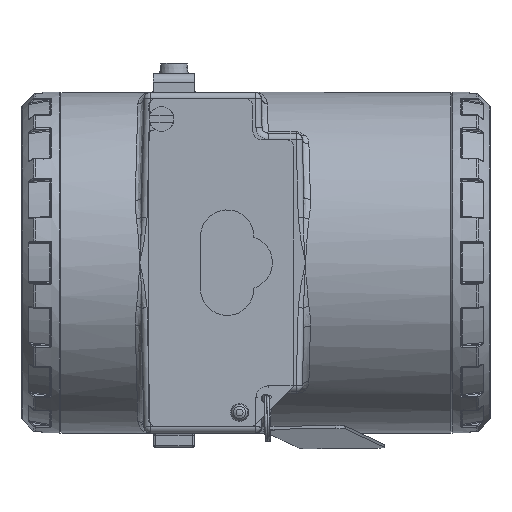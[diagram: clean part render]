
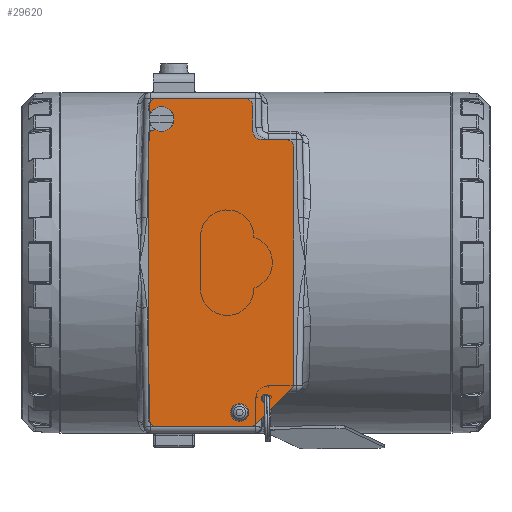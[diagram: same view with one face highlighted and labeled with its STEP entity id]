
A CAD part, left-side view. The second image highlights one B-rep face of the part: STEP entity #29620.
In plain terms, the highlighted planar face has unit normal (-1, 0, 0) as drawn and (0, 0, 1) by its records, which use the part's own axes.
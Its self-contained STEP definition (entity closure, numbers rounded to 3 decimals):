
#2741=FACE_BOUND('',#8742,.T.);
#2742=FACE_BOUND('',#8743,.T.);
#2966=PLANE('',#32798);
#3805=LINE('',#56198,#4946);
#3812=LINE('',#56229,#4953);
#3824=LINE('',#56270,#4965);
#3828=LINE('',#56280,#4969);
#3831=LINE('',#56288,#4972);
#3833=LINE('',#56294,#4974);
#3836=LINE('',#56302,#4977);
#3838=LINE('',#56308,#4979);
#3840=LINE('',#56315,#4981);
#3842=LINE('',#56320,#4983);
#4946=VECTOR('',#38799,10.);
#4953=VECTOR('',#38830,10.);
#4965=VECTOR('',#38866,10.);
#4969=VECTOR('',#38876,10.);
#4972=VECTOR('',#38885,10.);
#4974=VECTOR('',#38893,10.);
#4977=VECTOR('',#38902,10.);
#4979=VECTOR('',#38910,10.);
#4981=VECTOR('',#38918,10.);
#4983=VECTOR('',#38926,10.);
#6748=FACE_OUTER_BOUND('',#8741,.T.);
#8741=EDGE_LOOP('',(#23804,#23805,#23806,#23807,#23808,#23809,#23810,#23811,
#23812,#23813,#23814,#23815,#23816,#23817,#23818,#23819,#23820,#23821,#23822,
#23823));
#8742=EDGE_LOOP('',(#23824,#23825));
#8743=EDGE_LOOP('',(#23826,#23827));
#10726=CIRCLE('',#32751,2.);
#10727=CIRCLE('',#32754,1.);
#10728=CIRCLE('',#32755,1.);
#10730=CIRCLE('',#32758,1.35);
#10731=CIRCLE('',#32759,1.35);
#10733=CIRCLE('',#32762,1.);
#10743=CIRCLE('',#32775,1.);
#10744=CIRCLE('',#32778,2.);
#10745=CIRCLE('',#32781,2.);
#10746=CIRCLE('',#32784,2.);
#10747=CIRCLE('',#32787,2.);
#10748=CIRCLE('',#32790,2.);
#10749=CIRCLE('',#32793,2.);
#10750=CIRCLE('',#32796,2.1);
#13336=VERTEX_POINT('',#56188);
#13337=VERTEX_POINT('',#56190);
#13339=VERTEX_POINT('',#56196);
#13340=VERTEX_POINT('',#56200);
#13341=VERTEX_POINT('',#56201);
#13343=VERTEX_POINT('',#56208);
#13344=VERTEX_POINT('',#56209);
#13346=VERTEX_POINT('',#56216);
#13347=VERTEX_POINT('',#56217);
#13351=VERTEX_POINT('',#56227);
#13366=VERTEX_POINT('',#56262);
#13367=VERTEX_POINT('',#56263);
#13368=VERTEX_POINT('',#56268);
#13369=VERTEX_POINT('',#56272);
#13370=VERTEX_POINT('',#56273);
#13371=VERTEX_POINT('',#56278);
#13372=VERTEX_POINT('',#56282);
#13373=VERTEX_POINT('',#56286);
#13374=VERTEX_POINT('',#56290);
#13375=VERTEX_POINT('',#56296);
#13376=VERTEX_POINT('',#56300);
#13377=VERTEX_POINT('',#56304);
#13378=VERTEX_POINT('',#56310);
#13379=VERTEX_POINT('',#56314);
#16920=EDGE_CURVE('',#13336,#13337,#10726,.T.);
#16924=EDGE_CURVE('',#13339,#13336,#3805,.T.);
#16925=EDGE_CURVE('',#13340,#13341,#10727,.T.);
#16926=EDGE_CURVE('',#13341,#13340,#10728,.T.);
#16929=EDGE_CURVE('',#13343,#13344,#10730,.T.);
#16930=EDGE_CURVE('',#13344,#13343,#10731,.T.);
#16933=EDGE_CURVE('',#13346,#13347,#10733,.T.);
#16939=EDGE_CURVE('',#13351,#13346,#3812,.T.);
#16956=EDGE_CURVE('',#13366,#13367,#10743,.T.);
#16960=EDGE_CURVE('',#13368,#13366,#3824,.T.);
#16961=EDGE_CURVE('',#13369,#13370,#10744,.T.);
#16965=EDGE_CURVE('',#13371,#13369,#3828,.T.);
#16966=EDGE_CURVE('',#13372,#13371,#10745,.T.);
#16969=EDGE_CURVE('',#13373,#13372,#3831,.T.);
#16970=EDGE_CURVE('',#13374,#13373,#10746,.T.);
#16972=EDGE_CURVE('',#13337,#13374,#3833,.T.);
#16973=EDGE_CURVE('',#13375,#13339,#10747,.T.);
#16976=EDGE_CURVE('',#13376,#13375,#3836,.T.);
#16977=EDGE_CURVE('',#13377,#13376,#10748,.T.);
#16979=EDGE_CURVE('',#13347,#13377,#3838,.T.);
#16980=EDGE_CURVE('',#13378,#13368,#10749,.T.);
#16982=EDGE_CURVE('',#13367,#13379,#3840,.T.);
#16984=EDGE_CURVE('',#13379,#13351,#10750,.T.);
#16985=EDGE_CURVE('',#13370,#13378,#3842,.T.);
#23804=ORIENTED_EDGE('',*,*,#16933,.F.);
#23805=ORIENTED_EDGE('',*,*,#16939,.F.);
#23806=ORIENTED_EDGE('',*,*,#16984,.F.);
#23807=ORIENTED_EDGE('',*,*,#16982,.F.);
#23808=ORIENTED_EDGE('',*,*,#16956,.F.);
#23809=ORIENTED_EDGE('',*,*,#16960,.F.);
#23810=ORIENTED_EDGE('',*,*,#16980,.F.);
#23811=ORIENTED_EDGE('',*,*,#16985,.F.);
#23812=ORIENTED_EDGE('',*,*,#16961,.F.);
#23813=ORIENTED_EDGE('',*,*,#16965,.F.);
#23814=ORIENTED_EDGE('',*,*,#16966,.F.);
#23815=ORIENTED_EDGE('',*,*,#16969,.F.);
#23816=ORIENTED_EDGE('',*,*,#16970,.F.);
#23817=ORIENTED_EDGE('',*,*,#16972,.F.);
#23818=ORIENTED_EDGE('',*,*,#16920,.F.);
#23819=ORIENTED_EDGE('',*,*,#16924,.F.);
#23820=ORIENTED_EDGE('',*,*,#16973,.F.);
#23821=ORIENTED_EDGE('',*,*,#16976,.F.);
#23822=ORIENTED_EDGE('',*,*,#16977,.F.);
#23823=ORIENTED_EDGE('',*,*,#16979,.F.);
#23824=ORIENTED_EDGE('',*,*,#16925,.T.);
#23825=ORIENTED_EDGE('',*,*,#16926,.T.);
#23826=ORIENTED_EDGE('',*,*,#16929,.T.);
#23827=ORIENTED_EDGE('',*,*,#16930,.T.);
#29620=ADVANCED_FACE('',(#6748,#2741,#2742),#2966,.T.);
#32751=AXIS2_PLACEMENT_3D('',#56191,#38792,#38793);
#32754=AXIS2_PLACEMENT_3D('',#56202,#38802,#38803);
#32755=AXIS2_PLACEMENT_3D('',#56203,#38804,#38805);
#32758=AXIS2_PLACEMENT_3D('',#56210,#38811,#38812);
#32759=AXIS2_PLACEMENT_3D('',#56211,#38813,#38814);
#32762=AXIS2_PLACEMENT_3D('',#56218,#38820,#38821);
#32775=AXIS2_PLACEMENT_3D('',#56264,#38859,#38860);
#32778=AXIS2_PLACEMENT_3D('',#56274,#38869,#38870);
#32781=AXIS2_PLACEMENT_3D('',#56283,#38879,#38880);
#32784=AXIS2_PLACEMENT_3D('',#56291,#38888,#38889);
#32787=AXIS2_PLACEMENT_3D('',#56297,#38896,#38897);
#32790=AXIS2_PLACEMENT_3D('',#56305,#38905,#38906);
#32793=AXIS2_PLACEMENT_3D('',#56311,#38913,#38914);
#32796=AXIS2_PLACEMENT_3D('',#56318,#38922,#38923);
#32798=AXIS2_PLACEMENT_3D('',#56321,#38927,#38928);
#38792=DIRECTION('center_axis',(0.,0.,1.));
#38793=DIRECTION('ref_axis',(-0.707,0.707,0.));
#38799=DIRECTION('',(-1.,0.,0.));
#38802=DIRECTION('center_axis',(0.,0.,-1.));
#38803=DIRECTION('ref_axis',(1.,0.,0.));
#38804=DIRECTION('center_axis',(0.,0.,-1.));
#38805=DIRECTION('ref_axis',(1.,0.,0.));
#38811=DIRECTION('center_axis',(0.,0.,-1.));
#38812=DIRECTION('ref_axis',(1.,0.,0.));
#38813=DIRECTION('center_axis',(0.,0.,-1.));
#38814=DIRECTION('ref_axis',(1.,0.,0.));
#38820=DIRECTION('center_axis',(0.,0.,-1.));
#38821=DIRECTION('ref_axis',(-0.793,0.609,0.));
#38830=DIRECTION('',(-0.259,0.966,0.));
#38859=DIRECTION('center_axis',(0.,0.,-1.));
#38860=DIRECTION('ref_axis',(0.609,0.793,0.));
#38866=DIRECTION('',(1.,0.,0.));
#38869=DIRECTION('center_axis',(0.,0.,-1.));
#38870=DIRECTION('ref_axis',(-0.924,-0.383,0.));
#38876=DIRECTION('',(-0.707,0.707,0.));
#38879=DIRECTION('center_axis',(0.,0.,-1.));
#38880=DIRECTION('ref_axis',(-0.383,-0.924,0.));
#38885=DIRECTION('',(-1.,0.,0.));
#38888=DIRECTION('center_axis',(0.,0.,-1.));
#38889=DIRECTION('ref_axis',(0.707,-0.707,0.));
#38893=DIRECTION('',(0.,-1.,0.));
#38896=DIRECTION('center_axis',(0.,0.,-1.));
#38897=DIRECTION('ref_axis',(0.707,-0.707,0.));
#38902=DIRECTION('',(0.,-1.,0.));
#38905=DIRECTION('center_axis',(0.,0.,-1.));
#38906=DIRECTION('ref_axis',(0.707,0.707,0.));
#38910=DIRECTION('',(1.,0.,0.));
#38913=DIRECTION('center_axis',(0.,0.,-1.));
#38914=DIRECTION('ref_axis',(-0.707,0.707,0.));
#38918=DIRECTION('',(0.259,-0.966,0.));
#38922=DIRECTION('center_axis',(0.,0.,1.));
#38923=DIRECTION('ref_axis',(-0.966,-0.259,0.));
#38926=DIRECTION('',(0.,1.,0.));
#38927=DIRECTION('center_axis',(0.,0.,1.));
#38928=DIRECTION('ref_axis',(1.,0.,0.));
#56188=CARTESIAN_POINT('',(32.,-7.75,0.7));
#56190=CARTESIAN_POINT('',(30.,-9.75,0.7));
#56191=CARTESIAN_POINT('Origin',(32.,-9.75,0.7));
#56196=CARTESIAN_POINT('',(38.,-7.75,0.7));
#56198=CARTESIAN_POINT('',(40.,-7.75,0.7));
#56200=CARTESIAN_POINT('',(-32.,-10.75,0.7));
#56201=CARTESIAN_POINT('',(-34.,-10.75,0.7));
#56202=CARTESIAN_POINT('Origin',(-33.,-10.75,0.7));
#56203=CARTESIAN_POINT('Origin',(-33.,-10.75,0.7));
#56208=CARTESIAN_POINT('',(-35.15,-4.5,0.7));
#56209=CARTESIAN_POINT('',(-37.85,-4.5,0.7));
#56210=CARTESIAN_POINT('Origin',(-36.5,-4.5,0.7));
#56211=CARTESIAN_POINT('Origin',(-36.5,-4.5,0.7));
#56216=CARTESIAN_POINT('',(36.641,16.491,0.7));
#56217=CARTESIAN_POINT('',(37.606,17.75,0.7));
#56218=CARTESIAN_POINT('Origin',(37.606,16.75,0.7));
#56227=CARTESIAN_POINT('',(37.028,15.044,0.7));
#56229=CARTESIAN_POINT('',(37.028,15.044,0.7));
#56262=CARTESIAN_POINT('',(31.188,17.75,0.7));
#56263=CARTESIAN_POINT('',(32.154,17.009,0.7));
#56264=CARTESIAN_POINT('Origin',(31.188,16.75,0.7));
#56268=CARTESIAN_POINT('',(-38.,17.75,0.7));
#56270=CARTESIAN_POINT('',(-40.,17.75,0.7));
#56272=CARTESIAN_POINT('',(-39.414,-8.336,0.7));
#56273=CARTESIAN_POINT('',(-40.,-6.922,0.7));
#56274=CARTESIAN_POINT('Origin',(-38.,-6.922,0.7));
#56278=CARTESIAN_POINT('',(-30.586,-17.164,0.7));
#56280=CARTESIAN_POINT('',(-30.,-17.75,0.7));
#56282=CARTESIAN_POINT('',(-29.172,-17.75,0.7));
#56283=CARTESIAN_POINT('Origin',(-29.172,-15.75,0.7));
#56286=CARTESIAN_POINT('',(28.,-17.75,0.7));
#56288=CARTESIAN_POINT('',(30.,-17.75,0.7));
#56290=CARTESIAN_POINT('',(30.,-15.75,0.7));
#56291=CARTESIAN_POINT('Origin',(28.,-15.75,0.7));
#56294=CARTESIAN_POINT('',(30.,-7.75,0.7));
#56296=CARTESIAN_POINT('',(40.,-5.75,0.7));
#56297=CARTESIAN_POINT('Origin',(38.,-5.75,0.7));
#56300=CARTESIAN_POINT('',(40.,15.75,0.7));
#56302=CARTESIAN_POINT('',(40.,17.75,0.7));
#56304=CARTESIAN_POINT('',(38.,17.75,0.7));
#56305=CARTESIAN_POINT('Origin',(38.,15.75,0.7));
#56308=CARTESIAN_POINT('',(36.303,17.75,0.7));
#56310=CARTESIAN_POINT('',(-40.,15.75,0.7));
#56311=CARTESIAN_POINT('Origin',(-38.,15.75,0.7));
#56314=CARTESIAN_POINT('',(32.972,13.956,0.7));
#56315=CARTESIAN_POINT('',(31.955,17.75,0.7));
#56318=CARTESIAN_POINT('Origin',(35.,14.5,0.7));
#56320=CARTESIAN_POINT('',(-40.,-7.75,0.7));
#56321=CARTESIAN_POINT('Origin',(2.007,1.468,0.7));
